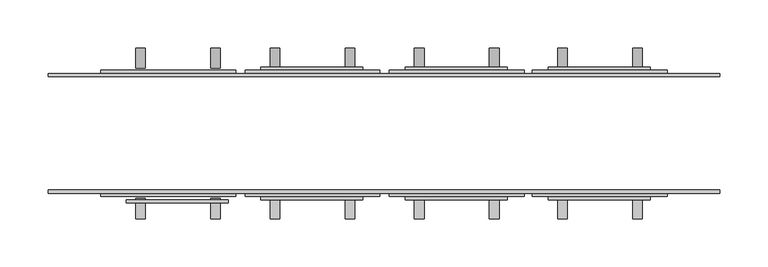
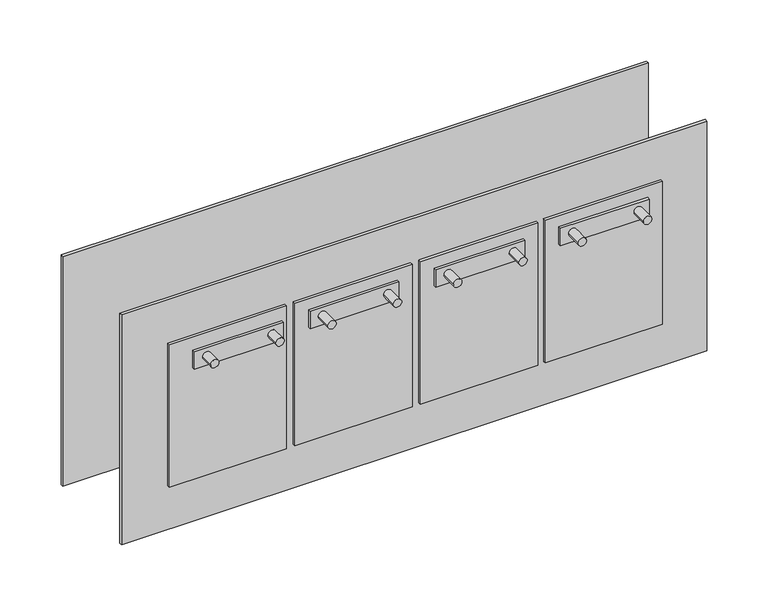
"""IFC4 building model written with IfcOpenShell, lengths in millimetres: proxy geometry, Distribution_Socket_4_rotated : Distribution_Socket_4_rotated."""

from ifc_helpers import new_model, si_unit, point, frame, frame_2d, origin, place, context, project, spatial, polyline, circle_curve, trimmed, segment, composite_curve, outline, extrude, source, transform, mapped, element, save


def electrical_equipment_7d681fff(model_context):
    return source(origin(), model_context, "Body", "SweptSolid", [
        extrude(outline(composite_curve([segment(trimmed(circle_curve(frame_2d((140.939009, 36.6989902)), 5.0), [point((140.939009, 31.6989902))], [point((140.939009, 41.6989902))], False, "CARTESIAN"), True, "CONTINUOUS"), segment(trimmed(circle_curve(frame_2d((140.939009, 36.6989902)), 5.0), [point((140.939009, 41.6989902))], [point((140.939009, 31.6989902))], False, "CARTESIAN"), True, "CONTINUOUS")], self_intersect=False)), frame((0.0, 68.0, 0.0), z_axis=(0.0, 1.0, 0.0), x_axis=(0.0, 0.0, 1.0)), (0.0, 0.0, 1.0), 20.9),
        extrude(outline(composite_curve([segment(trimmed(circle_curve(frame_2d((140.939009, 114.6946769)), 5.0), [point((140.939009, 109.6946769))], [point((140.939009, 119.6946769))], False, "CARTESIAN"), True, "CONTINUOUS"), segment(trimmed(circle_curve(frame_2d((140.939009, 114.6946769)), 5.0), [point((140.939009, 119.6946769))], [point((140.939009, 109.6946769))], False, "CARTESIAN"), True, "CONTINUOUS")], self_intersect=False)), frame((0.0, 68.0, 0.0), z_axis=(0.0, 1.0, 0.0), x_axis=(0.0, 0.0, 1.0)), (0.0, 0.0, 1.0), 20.9),
        extrude(outline(composite_curve([segment(trimmed(circle_curve(frame_2d((140.939009, 185.4592704)), 5.0), [point((140.939009, 180.4592704))], [point((140.939009, 190.4592704))], False, "CARTESIAN"), True, "CONTINUOUS"), segment(trimmed(circle_curve(frame_2d((140.939009, 185.4592704)), 5.0), [point((140.939009, 190.4592704))], [point((140.939009, 180.4592704))], False, "CARTESIAN"), True, "CONTINUOUS")], self_intersect=False)), frame((0.0, 68.0, 0.0), z_axis=(0.0, 1.0, 0.0), x_axis=(0.0, 0.0, 1.0)), (0.0, 0.0, 1.0), 20.9),
        extrude(outline(composite_curve([segment(trimmed(circle_curve(frame_2d((140.939009, 263.4549571)), 5.0), [point((140.939009, 258.4549571))], [point((140.939009, 268.4549571))], False, "CARTESIAN"), True, "CONTINUOUS"), segment(trimmed(circle_curve(frame_2d((140.939009, 263.4549571)), 5.0), [point((140.939009, 268.4549571))], [point((140.939009, 258.4549571))], False, "CARTESIAN"), True, "CONTINUOUS")], self_intersect=False)), frame((0.0, 68.0, 0.0), z_axis=(0.0, 1.0, 0.0), x_axis=(0.0, 0.0, 1.0)), (0.0, 0.0, 1.0), 20.9),
        extrude(outline(composite_curve([segment(trimmed(circle_curve(frame_2d((140.939009, -113.30104)), 5.0), [point((140.939009, -118.30104))], [point((140.939009, -108.30104))], False, "CARTESIAN"), True, "CONTINUOUS"), segment(trimmed(circle_curve(frame_2d((140.939009, -113.30104)), 5.0), [point((140.939009, -108.30104))], [point((140.939009, -118.30104))], False, "CARTESIAN"), True, "CONTINUOUS")], self_intersect=False)), frame((0.0, 68.0, 0.0), z_axis=(0.0, 1.0, 0.0), x_axis=(0.0, 0.0, 1.0)), (0.0, 0.0, 1.0), 20.9),
        extrude(outline(composite_curve([segment(trimmed(circle_curve(frame_2d((140.939009, -35.3053533)), 5.0), [point((140.939009, -40.3053533))], [point((140.939009, -30.3053533))], False, "CARTESIAN"), True, "CONTINUOUS"), segment(trimmed(circle_curve(frame_2d((140.939009, -35.3053533)), 5.0), [point((140.939009, -30.3053533))], [point((140.939009, -40.3053533))], False, "CARTESIAN"), True, "CONTINUOUS")], self_intersect=False)), frame((0.0, 68.0, 0.0), z_axis=(0.0, 1.0, 0.0), x_axis=(0.0, 0.0, 1.0)), (0.0, 0.0, 1.0), 20.9),
        extrude(outline(composite_curve([segment(trimmed(circle_curve(frame_2d((140.939009, -253.4413884)), 5.0), [point((140.939009, -258.4413884))], [point((140.939009, -248.4413884))], False, "CARTESIAN"), True, "CONTINUOUS"), segment(trimmed(circle_curve(frame_2d((140.939009, -253.4413884)), 5.0), [point((140.939009, -248.4413884))], [point((140.939009, -258.4413884))], False, "CARTESIAN"), True, "CONTINUOUS")], self_intersect=False)), frame((0.0, 68.0, 0.0), z_axis=(0.0, 1.0, 0.0), x_axis=(0.0, 0.0, 1.0)), (0.0, 0.0, 1.0), 20.9),
        extrude(outline(composite_curve([segment(trimmed(circle_curve(frame_2d((140.939009, -175.4457017)), 5.0), [point((140.939009, -180.4457017))], [point((140.939009, -170.4457017))], False, "CARTESIAN"), True, "CONTINUOUS"), segment(trimmed(circle_curve(frame_2d((140.939009, -175.4457017)), 5.0), [point((140.939009, -170.4457017))], [point((140.939009, -180.4457017))], False, "CARTESIAN"), True, "CONTINUOUS")], self_intersect=False)), frame((0.0, 68.0, 0.0), z_axis=(0.0, 1.0, 0.0), x_axis=(0.0, 0.0, 1.0)), (0.0, 0.0, 1.0), 20.9),
        extrude(outline(composite_curve([segment(trimmed(circle_curve(frame_2d((140.939009, 36.6989902)), 5.0), [point((140.939009, 31.6989902))], [point((140.939009, 41.6989902))], False, "CARTESIAN"), True, "CONTINUOUS"), segment(trimmed(circle_curve(frame_2d((140.939009, 36.6989902)), 5.0), [point((140.939009, 41.6989902))], [point((140.939009, 31.6989902))], False, "CARTESIAN"), True, "CONTINUOUS")], self_intersect=False)), frame((0.0, -88.9, 0.0), z_axis=(0.0, 1.0, 0.0), x_axis=(0.0, 0.0, 1.0)), (0.0, 0.0, 1.0), 20.9),
        extrude(outline(composite_curve([segment(trimmed(circle_curve(frame_2d((140.939009, 114.6946769)), 5.0), [point((140.939009, 109.6946769))], [point((140.939009, 119.6946769))], False, "CARTESIAN"), True, "CONTINUOUS"), segment(trimmed(circle_curve(frame_2d((140.939009, 114.6946769)), 5.0), [point((140.939009, 119.6946769))], [point((140.939009, 109.6946769))], False, "CARTESIAN"), True, "CONTINUOUS")], self_intersect=False)), frame((0.0, -88.9, 0.0), z_axis=(0.0, 1.0, 0.0), x_axis=(0.0, 0.0, 1.0)), (0.0, 0.0, 1.0), 20.9),
        extrude(outline(composite_curve([segment(trimmed(circle_curve(frame_2d((140.939009, 185.4592704)), 5.0), [point((140.939009, 180.4592704))], [point((140.939009, 190.4592704))], False, "CARTESIAN"), True, "CONTINUOUS"), segment(trimmed(circle_curve(frame_2d((140.939009, 185.4592704)), 5.0), [point((140.939009, 190.4592704))], [point((140.939009, 180.4592704))], False, "CARTESIAN"), True, "CONTINUOUS")], self_intersect=False)), frame((0.0, -88.9, 0.0), z_axis=(0.0, 1.0, 0.0), x_axis=(0.0, 0.0, 1.0)), (0.0, 0.0, 1.0), 20.9),
        extrude(outline(composite_curve([segment(trimmed(circle_curve(frame_2d((140.939009, 263.4549571)), 5.0), [point((140.939009, 258.4549571))], [point((140.939009, 268.4549571))], False, "CARTESIAN"), True, "CONTINUOUS"), segment(trimmed(circle_curve(frame_2d((140.939009, 263.4549571)), 5.0), [point((140.939009, 268.4549571))], [point((140.939009, 258.4549571))], False, "CARTESIAN"), True, "CONTINUOUS")], self_intersect=False)), frame((0.0, -88.9, 0.0), z_axis=(0.0, 1.0, 0.0), x_axis=(0.0, 0.0, 1.0)), (0.0, 0.0, 1.0), 20.9),
        extrude(outline(composite_curve([segment(trimmed(circle_curve(frame_2d((140.939009, -253.4413884)), 5.0), [point((140.939009, -258.4413884))], [point((140.939009, -248.4413884))], False, "CARTESIAN"), True, "CONTINUOUS"), segment(trimmed(circle_curve(frame_2d((140.939009, -253.4413884)), 5.0), [point((140.939009, -248.4413884))], [point((140.939009, -258.4413884))], False, "CARTESIAN"), True, "CONTINUOUS")], self_intersect=False)), frame((0.0, -88.9, 0.0), z_axis=(0.0, 1.0, 0.0), x_axis=(0.0, 0.0, 1.0)), (0.0, 0.0, 1.0), 20.9),
        extrude(outline(composite_curve([segment(trimmed(circle_curve(frame_2d((140.939009, -175.4457017)), 5.0), [point((140.939009, -180.4457017))], [point((140.939009, -170.4457017))], False, "CARTESIAN"), True, "CONTINUOUS"), segment(trimmed(circle_curve(frame_2d((140.939009, -175.4457017)), 5.0), [point((140.939009, -170.4457017))], [point((140.939009, -180.4457017))], False, "CARTESIAN"), True, "CONTINUOUS")], self_intersect=False)), frame((0.0, -88.9, 0.0), z_axis=(0.0, 1.0, 0.0), x_axis=(0.0, 0.0, 1.0)), (0.0, 0.0, 1.0), 20.9),
        extrude(outline(composite_curve([segment(trimmed(circle_curve(frame_2d((140.939009, -113.30104)), 5.0), [point((140.939009, -118.30104))], [point((140.939009, -108.30104))], False, "CARTESIAN"), True, "CONTINUOUS"), segment(trimmed(circle_curve(frame_2d((140.939009, -113.30104)), 5.0), [point((140.939009, -108.30104))], [point((140.939009, -118.30104))], False, "CARTESIAN"), True, "CONTINUOUS")], self_intersect=False)), frame((0.0, -88.9, 0.0), z_axis=(0.0, 1.0, 0.0), x_axis=(0.0, 0.0, 1.0)), (0.0, 0.0, 1.0), 20.9),
        extrude(outline(composite_curve([segment(trimmed(circle_curve(frame_2d((140.939009, -35.3053533)), 5.0), [point((140.939009, -40.3053533))], [point((140.939009, -30.3053533))], False, "CARTESIAN"), True, "CONTINUOUS"), segment(trimmed(circle_curve(frame_2d((140.939009, -35.3053533)), 5.0), [point((140.939009, -30.3053533))], [point((140.939009, -40.3053533))], False, "CARTESIAN"), True, "CONTINUOUS")], self_intersect=False)), frame((0.0, -88.9, 0.0), z_axis=(0.0, 1.0, 0.0), x_axis=(0.0, 0.0, 1.0)), (0.0, 0.0, 1.0), 20.9),
        extrude(outline(polyline([(128.0000504, 69.1115), (128.0000504, 65.7409978), (21.9999798, 65.7409978), (21.9999798, 69.1115), (128.0000504, 69.1115)])), frame((0.0, 0.0, 129.0000151), z_axis=(0.0, 0.0, 1.0), x_axis=(1.0, 0.0, 0.0)), (0.0, 0.0, 1.0), 22.0),
        extrude(outline(polyline([(128.0000504, -69.1115), (21.9999798, -69.1115), (21.9999798, -65.7409978), (128.0000504, -65.7409978), (128.0000504, -69.1115)])), frame((0.0, 0.0, 129.0000151), z_axis=(0.0, 0.0, 1.0), x_axis=(1.0, 0.0, 0.0)), (0.0, 0.0, 1.0), 22.0),
        extrude(outline(polyline([(-162.1403282, 65.741), (-162.1403282, 62.3704978), (-268.1403988, 62.3704978), (-268.1403988, 65.741), (-162.1403282, 65.741)])), frame((0.0, 0.0, 129.0000151), z_axis=(0.0, 0.0, 1.0), x_axis=(1.0, 0.0, 0.0)), (0.0, 0.0, 1.0), 22.0),
        extrude(outline(polyline([(-162.1403282, -72.482), (-268.1403988, -72.482), (-268.1403988, -69.1114978), (-162.1403282, -69.1114978), (-162.1403282, -72.482)])), frame((0.0, 0.0, 129.0000151), z_axis=(0.0, 0.0, 1.0), x_axis=(1.0, 0.0, 0.0)), (0.0, 0.0, 1.0), 22.0),
        extrude(outline(polyline([(-21.9999798, 69.1115), (-21.9999798, 65.7409978), (-128.0000504, 65.7409978), (-128.0000504, 69.1115), (-21.9999798, 69.1115)])), frame((0.0, 0.0, 129.0000151), z_axis=(0.0, 0.0, 1.0), x_axis=(1.0, 0.0, 0.0)), (0.0, 0.0, 1.0), 22.0),
        extrude(outline(polyline([(-21.9999798, -69.1115), (-128.0000504, -69.1115), (-128.0000504, -65.7409978), (-21.9999798, -65.7409978), (-21.9999798, -69.1115)])), frame((0.0, 0.0, 129.0000151), z_axis=(0.0, 0.0, 1.0), x_axis=(1.0, 0.0, 0.0)), (0.0, 0.0, 1.0), 22.0),
        extrude(outline(polyline([(276.7603306, 69.1115), (276.7603306, 65.7409978), (170.76026, 65.7409978), (170.76026, 69.1115), (276.7603306, 69.1115)])), frame((0.0, 0.0, 129.0000151), z_axis=(0.0, 0.0, 1.0), x_axis=(1.0, 0.0, 0.0)), (0.0, 0.0, 1.0), 22.0),
        extrude(outline(polyline([(276.7603306, -69.1115), (170.76026, -69.1115), (170.76026, -65.7409978), (276.7603306, -65.7409978), (276.7603306, -69.1115)])), frame((0.0, 0.0, 129.0000151), z_axis=(0.0, 0.0, 1.0), x_axis=(1.0, 0.0, 0.0)), (0.0, 0.0, 1.0), 22.0),
        extrude(outline(polyline([(5.619875, 65.7409978), (145.6199051, 65.7409978), (145.6199051, 62.3705), (5.619875, 62.3705), (5.619875, 65.7409978)])), frame((0.0, 0.0, -14.9999849), z_axis=(0.0, 0.0, 1.0), x_axis=(1.0, 0.0, 0.0)), (0.0, 0.0, 1.0), 180.0),
        extrude(outline(polyline([(5.619875, -65.7409978), (5.619875, -62.3705004), (145.6199051, -62.3705004), (145.6199051, -65.7409978), (5.619875, -65.7409978)])), frame((0.0, 0.0, -14.9999849), z_axis=(0.0, 0.0, 1.0), x_axis=(1.0, 0.0, 0.0)), (0.0, 0.0, 1.0), 180.0),
        extrude(outline(polyline([(154.3801552, 65.7409978), (294.3801853, 65.7409978), (294.3801853, 62.3705), (154.3801552, 62.3705), (154.3801552, 65.7409978)])), frame((0.0, 0.0, -14.9999849), z_axis=(0.0, 0.0, 1.0), x_axis=(1.0, 0.0, 0.0)), (0.0, 0.0, 1.0), 180.0),
        extrude(outline(polyline([(154.3801552, -65.7409978), (154.3801552, -62.3705004), (294.3801853, -62.3705004), (294.3801853, -65.7409978), (154.3801552, -65.7409978)])), frame((0.0, 0.0, -14.9999849), z_axis=(0.0, 0.0, 1.0), x_axis=(1.0, 0.0, 0.0)), (0.0, 0.0, 1.0), 180.0),
        extrude(outline(polyline([(-144.3801552, 65.7409978), (-4.380125, 65.7409978), (-4.380125, 62.3705), (-144.3801552, 62.3705), (-144.3801552, 65.7409978)])), frame((0.0, 0.0, -14.9999849), z_axis=(0.0, 0.0, 1.0), x_axis=(1.0, 0.0, 0.0)), (0.0, 0.0, 1.0), 180.0),
        extrude(outline(polyline([(-144.3801552, -65.7409978), (-144.3801552, -62.3705004), (-4.380125, -62.3705004), (-4.380125, -65.7409978), (-144.3801552, -65.7409978)])), frame((0.0, 0.0, -14.9999849), z_axis=(0.0, 0.0, 1.0), x_axis=(1.0, 0.0, 0.0)), (0.0, 0.0, 1.0), 180.0),
        extrude(outline(polyline([(-294.3801853, 65.7409978), (-154.3801552, 65.7409978), (-154.3801552, 62.3705), (-294.3801853, 62.3705), (-294.3801853, 65.7409978)])), frame((0.0, 0.0, -14.9999849), z_axis=(0.0, 0.0, 1.0), x_axis=(1.0, 0.0, 0.0)), (0.0, 0.0, 1.0), 180.0),
        extrude(outline(polyline([(-294.3801853, -65.7409978), (-294.3801853, -62.3705004), (-154.3801552, -62.3705004), (-154.3801552, -65.7409978), (-294.3801853, -65.7409978)])), frame((0.0, 0.0, -14.9999849), z_axis=(0.0, 0.0, 1.0), x_axis=(1.0, 0.0, 0.0)), (0.0, 0.0, 1.0), 180.0),
        extrude(outline(polyline([(349.3801853, 62.3705), (349.3801853, 59.0), (-349.3801853, 59.0), (-349.3801853, 62.3705), (349.3801853, 62.3705)])), frame((0.0, 0.0, -69.9999849), z_axis=(0.0, 0.0, 1.0), x_axis=(1.0, 0.0, 0.0)), (0.0, 0.0, 1.0), 290.0),
        extrude(outline(polyline([(-349.3801853, -62.3705004), (-349.3801853, -59.0), (349.3801853, -59.0), (349.3801853, -62.3705004), (-349.3801853, -62.3705004)])), frame((0.0, 0.0, -69.9999849), z_axis=(0.0, 0.0, 1.0), x_axis=(1.0, 0.0, 0.0)), (0.0, 0.0, 1.0), 290.0),
    ])


if __name__ == "__main__":
    model = new_model("IFC4")
    model_context = context("Model", 3, world=origin())
    ifc_project = project(units=[si_unit("LENGTHUNIT", "METRE", prefix="MILLI")], contexts=[model_context])
    site = spatial("IfcSite", under=ifc_project)
    building = spatial("IfcBuilding", under=site)
    placement = place(None, origin())
    electrical_equipment_shape = electrical_equipment_7d681fff(model_context)
    element("IfcBuildingElementProxy", 1, Name="Distribution_Socket_4_rotated : Distribution_Socket_4_rotated", ObjectType="Distribution_Socket_4_rotated : Distribution_Socket_4_rotated", at=placement, inside=building, context=model_context, shape_type="MappedRepresentation", body=[
        mapped(electrical_equipment_shape, transform((0.0, 0.0, 0.0), x_axis=(1.0, 0.0, 0.0), y_axis=(0.0, 1.0, 0.0), z_axis=(0.0, 0.0, 1.0))),
    ])
    save(model, "model.ifc")
